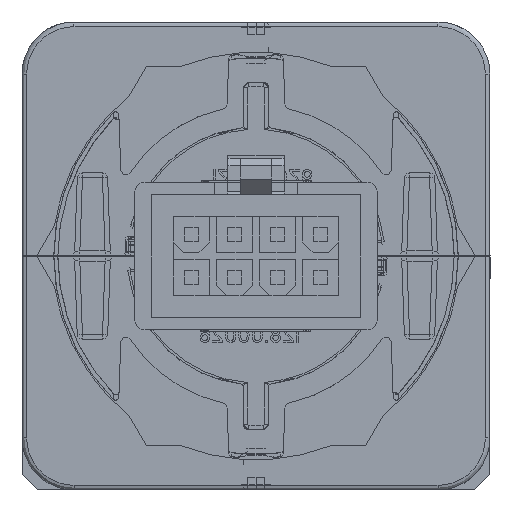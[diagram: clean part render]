
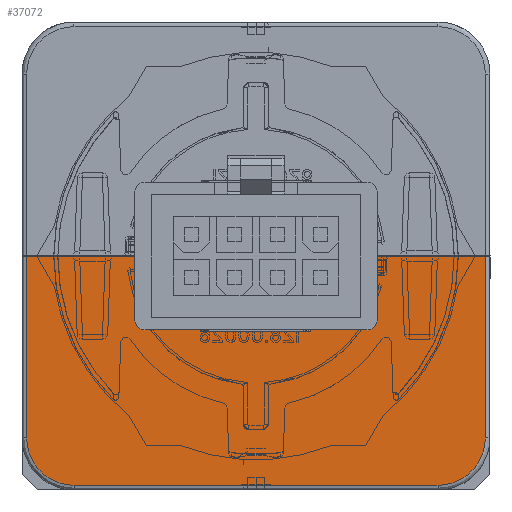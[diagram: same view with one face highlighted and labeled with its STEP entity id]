
A CAD part, front view. The second image highlights one B-rep face of the part: STEP entity #37072.
In plain terms, the highlighted planar face has unit normal (0, -1, 0) as drawn and (0, 1, 0) by its records, which use the part's own axes.
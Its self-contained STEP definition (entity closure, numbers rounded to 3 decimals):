
#682=LINE('',#53464,#3982);
#3020=LINE('',#60111,#6320);
#3024=LINE('',#60127,#6324);
#3029=LINE('',#60141,#6329);
#3038=LINE('',#60273,#6338);
#3982=VECTOR('',#41888,1000.);
#6320=VECTOR('',#47224,1000.);
#6324=VECTOR('',#47242,1000.);
#6329=VECTOR('',#47257,1000.);
#6338=VECTOR('',#47322,1000.);
#7882=PLANE('',#39694);
#8303=CIRCLE('',#37873,2.9);
#8890=CIRCLE('',#39655,4.55);
#8908=CIRCLE('',#39691,4.55);
#16644=ORIENTED_EDGE('',*,*,#22698,.F.);
#16645=ORIENTED_EDGE('',*,*,#22699,.T.);
#16646=ORIENTED_EDGE('',*,*,#19739,.T.);
#16647=ORIENTED_EDGE('',*,*,#19404,.F.);
#16648=ORIENTED_EDGE('',*,*,#22652,.T.);
#16649=ORIENTED_EDGE('',*,*,#22660,.T.);
#16650=ORIENTED_EDGE('',*,*,#22654,.F.);
#16651=ORIENTED_EDGE('',*,*,#22667,.T.);
#19404=EDGE_CURVE('',#24164,#24165,#8303,.T.);
#19739=EDGE_CURVE('',#24365,#24165,#682,.T.);
#22652=EDGE_CURVE('',#24164,#26272,#3020,.T.);
#22654=EDGE_CURVE('',#26273,#26275,#8890,.T.);
#22660=EDGE_CURVE('',#26272,#26275,#3024,.F.);
#22667=EDGE_CURVE('',#26273,#26281,#3029,.T.);
#22698=EDGE_CURVE('',#26292,#26281,#8908,.T.);
#22699=EDGE_CURVE('',#26292,#24365,#3038,.T.);
#24164=VERTEX_POINT('',#51637);
#24165=VERTEX_POINT('',#51638);
#24365=VERTEX_POINT('',#53465);
#26272=VERTEX_POINT('',#60110);
#26273=VERTEX_POINT('',#60114);
#26275=VERTEX_POINT('',#60117);
#26281=VERTEX_POINT('',#60140);
#26292=VERTEX_POINT('',#60270);
#28975=EDGE_LOOP('',(#16644,#16645,#16646,#16647,#16648,#16649,#16650,#16651));
#30992=FACE_BOUND('',#28975,.T.);
#37072=ADVANCED_FACE('',(#30992),#7882,.F.);
#37873=AXIS2_PLACEMENT_3D('',#51636,#41221,#41222);
#39655=AXIS2_PLACEMENT_3D('',#60116,#47229,#47230);
#39691=AXIS2_PLACEMENT_3D('',#60271,#47318,#47319);
#39694=AXIS2_PLACEMENT_3D('',#60287,#47325,#47326);
#41221=DIRECTION('',(0.,1.,0.));
#41222=DIRECTION('',(0.,0.,-1.));
#41888=DIRECTION('',(1.,0.,0.));
#47224=DIRECTION('',(1.,0.,0.));
#47229=DIRECTION('',(0.,-1.,0.));
#47230=DIRECTION('',(-1.,0.,0.));
#47242=DIRECTION('',(0.,0.,1.));
#47257=DIRECTION('',(-1.,0.,0.));
#47318=DIRECTION('',(0.,-1.,0.));
#47319=DIRECTION('',(-1.,0.,0.));
#47322=DIRECTION('',(0.,0.,1.));
#47325=DIRECTION('',(0.,-1.,0.));
#47326=DIRECTION('',(-1.,0.,0.));
#51636=CARTESIAN_POINT('',(0.,0.,0.));
#51637=CARTESIAN_POINT('',(2.9,0.,0.));
#51638=CARTESIAN_POINT('',(-2.9,0.,0.));
#53464=CARTESIAN_POINT('',(0.,0.,0.));
#53465=CARTESIAN_POINT('',(-22.05,0.,0.));
#60110=CARTESIAN_POINT('',(22.05,0.,0.));
#60111=CARTESIAN_POINT('',(0.,0.,0.));
#60114=CARTESIAN_POINT('',(17.5,0.,-22.05));
#60116=CARTESIAN_POINT('',(17.5,0.,-17.5));
#60117=CARTESIAN_POINT('',(22.05,0.,-17.5));
#60127=CARTESIAN_POINT('',(22.05,0.,17703.));
#60140=CARTESIAN_POINT('',(-17.5,0.,-22.05));
#60141=CARTESIAN_POINT('',(-5008.5,0.,-22.05));
#60270=CARTESIAN_POINT('',(-22.05,0.,-17.5));
#60271=CARTESIAN_POINT('',(-17.5,0.,-17.5));
#60273=CARTESIAN_POINT('',(-22.05,0.,17703.));
#60287=CARTESIAN_POINT('',(-5008.5,0.,17703.));
